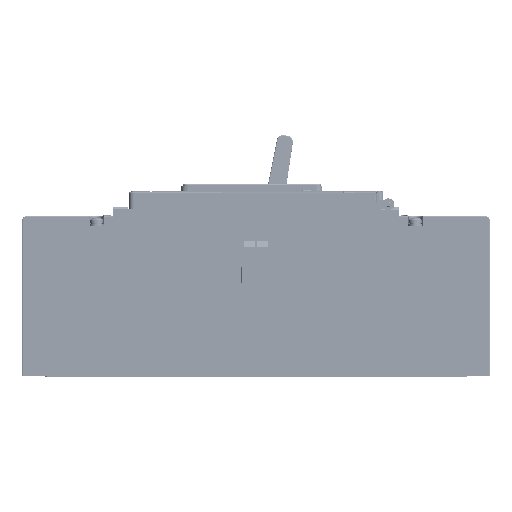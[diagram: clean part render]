
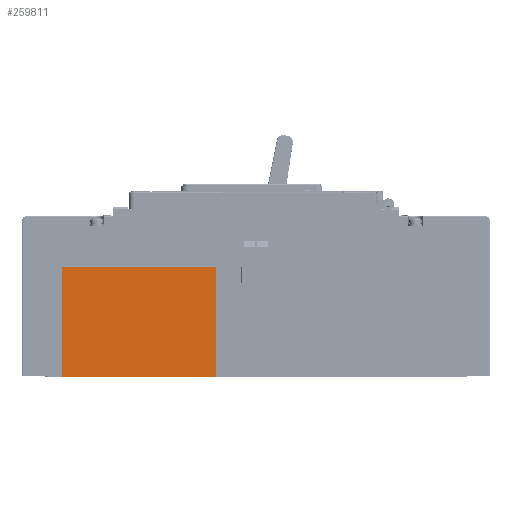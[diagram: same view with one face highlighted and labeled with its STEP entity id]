
A CAD part, left-side view. The second image highlights one B-rep face of the part: STEP entity #259811.
In plain terms, the highlighted planar face has unit normal (-1, 0, 0).
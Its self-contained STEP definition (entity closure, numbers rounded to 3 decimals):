
#237169=DIRECTION('',(0.,0.,-1.));
#237170=VECTOR('',#237169,67.);
#237171=CARTESIAN_POINT('',(-75.,24.5,67.));
#237172=LINE('',#237171,#237170);
#237173=DIRECTION('',(0.,1.,0.));
#237174=VECTOR('',#237173,93.4);
#237175=CARTESIAN_POINT('',(-75.,24.5,0.));
#237176=LINE('',#237175,#237174);
#237177=DIRECTION('',(0.,0.,-1.));
#237178=VECTOR('',#237177,67.);
#237179=CARTESIAN_POINT('',(-75.,117.9,67.));
#237180=LINE('',#237179,#237178);
#237201=DIRECTION('',(0.,1.,0.));
#237202=VECTOR('',#237201,93.4);
#237203=CARTESIAN_POINT('',(-75.,24.5,67.));
#237204=LINE('',#237203,#237202);
#254206=CARTESIAN_POINT('',(-75.,24.5,0.));
#254207=CARTESIAN_POINT('',(-75.,117.9,0.));
#254208=VERTEX_POINT('',#254206);
#254209=VERTEX_POINT('',#254207);
#254292=CARTESIAN_POINT('',(-75.,24.5,67.));
#254293=VERTEX_POINT('',#254292);
#254296=CARTESIAN_POINT('',(-75.,117.9,67.));
#254297=VERTEX_POINT('',#254296);
#259798=CARTESIAN_POINT('',(-75.,71.2,33.5));
#259799=DIRECTION('',(1.,0.,0.));
#259800=DIRECTION('',(0.,-1.,0.));
#259801=AXIS2_PLACEMENT_3D('',#259798,#259799,#259800);
#259802=PLANE('',#259801);
#259803=ORIENTED_EDGE('',*,*,#259790,.T.);
#259804=ORIENTED_EDGE('',*,*,#259656,.T.);
#259806=ORIENTED_EDGE('',*,*,#259805,.F.);
#259808=ORIENTED_EDGE('',*,*,#259807,.F.);
#259809=EDGE_LOOP('',(#259803,#259804,#259806,#259808));
#259810=FACE_OUTER_BOUND('',#259809,.F.);
#259811=ADVANCED_FACE('',(#259810),#259802,.F.);
#259656=EDGE_CURVE('',#254208,#254209,#237176,.T.);
#259790=EDGE_CURVE('',#254293,#254208,#237172,.T.);
#259805=EDGE_CURVE('',#254297,#254209,#237180,.T.);
#259807=EDGE_CURVE('',#254293,#254297,#237204,.T.);
